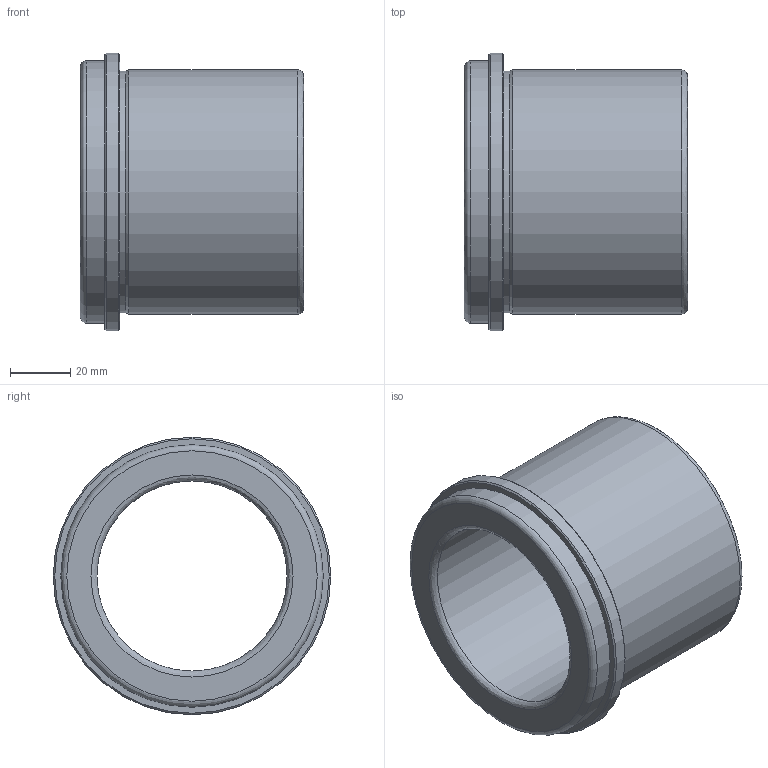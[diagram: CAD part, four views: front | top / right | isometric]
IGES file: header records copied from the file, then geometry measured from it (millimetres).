
Global section: file name: BEG63C.ipt; native system: Autodesk Inventor 2021; preprocessor: unknown; author: SM; date: 20211217.143544; units: millimetre
Bounding box: 74 x 92 x 92 mm (x, y, z)
Volume: 163271.1 mm3; surface area: 40046.8 mm2
Topology: 1 solids, 1 shells, 16 faces, 38 edges, 26 vertices
Faces by surface type: revolution 5, plane 4, cylinder 4, cone 3
Full cylindrical faces by diameter (mm): 80 x1, 81 x1, 87 x1, 92 x1
